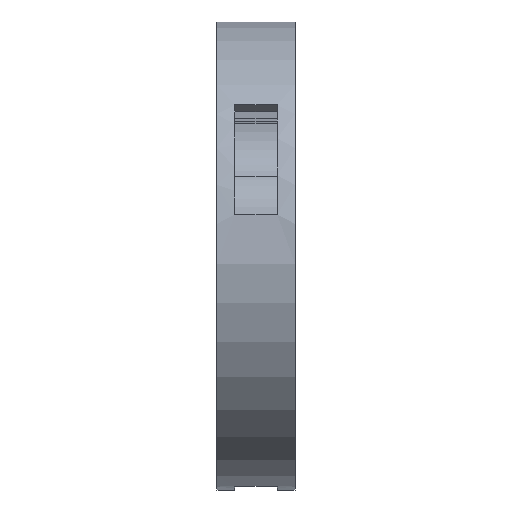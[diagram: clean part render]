
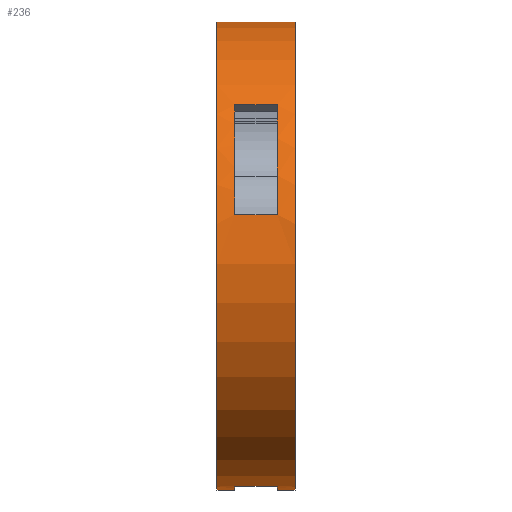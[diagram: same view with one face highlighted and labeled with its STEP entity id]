
A CAD part, top view. The second image highlights one B-rep face of the part: STEP entity #236.
In plain terms, the highlighted cylindrical face has radius 21 mm (diameter 42 mm), a partial arc.
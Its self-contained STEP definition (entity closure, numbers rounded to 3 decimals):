
#125=CARTESIAN_POINT('',(0.,0.0,0.0));
#126=DIRECTION('',(1.0,0.0,0.0));
#127=DIRECTION('',(0.0,1.0,0.0));
#128=AXIS2_PLACEMENT_3D('',#125,#126,#127);
#129=CYLINDRICAL_SURFACE('',#128,21.);
#130=CARTESIAN_POINT('',(3.5,-21.0,0.));
#131=VERTEX_POINT('',#130);
#132=CARTESIAN_POINT('',(1.9,-21.,0.));
#133=VERTEX_POINT('',#132);
#134=CARTESIAN_POINT('',(3.5,-21.0,0.));
#135=DIRECTION('',(-1.0,0.0,0.0));
#136=VECTOR('',#135,1.6);
#137=LINE('',#134,#136);
#138=EDGE_CURVE('',#131,#133,#137,.T.);
#139=ORIENTED_EDGE('',*,*,#138,.F.);
#140=CARTESIAN_POINT('',(3.5,20.946,1.5));
#141=VERTEX_POINT('',#140);
#142=CARTESIAN_POINT('',(3.5,0.0,0.0));
#143=DIRECTION('',(1.0,0.0,0.0));
#144=DIRECTION('',(0.0,1.0,0.0));
#145=AXIS2_PLACEMENT_3D('',#142,#143,#144);
#146=CIRCLE('',#145,21.0);
#147=EDGE_CURVE('',#141,#131,#146,.T.);
#148=ORIENTED_EDGE('',*,*,#147,.F.);
#149=CARTESIAN_POINT('',(-3.5,20.946,1.5));
#150=VERTEX_POINT('',#149);
#151=CARTESIAN_POINT('',(3.5,20.946,1.5));
#152=DIRECTION('',(-1.0,0.0,0.0));
#153=VECTOR('',#152,7.);
#154=LINE('',#151,#153);
#155=EDGE_CURVE('',#141,#150,#154,.T.);
#156=ORIENTED_EDGE('',*,*,#155,.T.);
#157=CARTESIAN_POINT('',(-3.5,-21.,0.));
#158=VERTEX_POINT('',#157);
#159=CARTESIAN_POINT('',(-3.5,0.0,0.0));
#160=DIRECTION('',(1.0,0.0,0.0));
#161=DIRECTION('',(0.0,1.0,0.0));
#162=AXIS2_PLACEMENT_3D('',#159,#160,#161);
#163=CIRCLE('',#162,21.);
#164=EDGE_CURVE('',#150,#158,#163,.T.);
#165=ORIENTED_EDGE('',*,*,#164,.T.);
#166=CARTESIAN_POINT('',(-1.9,-21.,0.));
#167=VERTEX_POINT('',#166);
#168=CARTESIAN_POINT('',(-1.9,-21.,0.));
#169=DIRECTION('',(-1.0,0.0,0.0));
#170=VECTOR('',#169,1.6);
#171=LINE('',#168,#170);
#172=EDGE_CURVE('',#167,#158,#171,.T.);
#173=ORIENTED_EDGE('',*,*,#172,.F.);
#174=CARTESIAN_POINT('',(-1.9,-20.681,3.647));
#175=VERTEX_POINT('',#174);
#176=CARTESIAN_POINT('',(-1.9,0.0,0.0));
#177=DIRECTION('',(-1.0,0.0,0.0));
#178=DIRECTION('',(0.0,1.0,0.0));
#179=AXIS2_PLACEMENT_3D('',#176,#177,#178);
#180=CIRCLE('',#179,21.);
#181=EDGE_CURVE('',#167,#175,#180,.T.);
#182=ORIENTED_EDGE('',*,*,#181,.T.);
#183=CARTESIAN_POINT('',(1.9,-20.681,3.647));
#184=VERTEX_POINT('',#183);
#185=CARTESIAN_POINT('',(-1.9,-20.681,3.647));
#186=DIRECTION('',(1.0,0.0,0.0));
#187=VECTOR('',#186,3.8);
#188=LINE('',#185,#187);
#189=EDGE_CURVE('',#175,#184,#188,.T.);
#190=ORIENTED_EDGE('',*,*,#189,.T.);
#191=CARTESIAN_POINT('',(1.9,0.0,0.0));
#192=DIRECTION('',(1.0,0.0,0.0));
#193=DIRECTION('',(0.0,1.0,0.0));
#194=AXIS2_PLACEMENT_3D('',#191,#192,#193);
#195=CIRCLE('',#194,21.);
#196=EDGE_CURVE('',#184,#133,#195,.T.);
#197=ORIENTED_EDGE('',*,*,#196,.T.);
#198=EDGE_LOOP('',(#139,#148,#156,#165,#173,#182,#190,#197));
#199=FACE_OUTER_BOUND('',#198,.T.);
#200=CARTESIAN_POINT('',(1.9,13.499,16.087));
#201=VERTEX_POINT('',#200);
#202=CARTESIAN_POINT('',(1.9,3.647,20.681));
#203=VERTEX_POINT('',#202);
#204=CARTESIAN_POINT('',(1.9,0.0,0.0));
#205=DIRECTION('',(1.0,0.0,0.0));
#206=DIRECTION('',(0.0,1.0,0.0));
#207=AXIS2_PLACEMENT_3D('',#204,#205,#206);
#208=CIRCLE('',#207,21.);
#209=EDGE_CURVE('',#201,#203,#208,.T.);
#210=ORIENTED_EDGE('',*,*,#209,.T.);
#211=CARTESIAN_POINT('',(-1.9,3.647,20.681));
#212=VERTEX_POINT('',#211);
#213=CARTESIAN_POINT('',(1.9,3.647,20.681));
#214=DIRECTION('',(-1.0,0.0,0.0));
#215=VECTOR('',#214,3.8);
#216=LINE('',#213,#215);
#217=EDGE_CURVE('',#203,#212,#216,.T.);
#218=ORIENTED_EDGE('',*,*,#217,.T.);
#219=CARTESIAN_POINT('',(-1.9,13.499,16.087));
#220=VERTEX_POINT('',#219);
#221=CARTESIAN_POINT('',(-1.9,0.0,0.0));
#222=DIRECTION('',(-1.0,0.0,0.0));
#223=DIRECTION('',(0.0,1.0,0.0));
#224=AXIS2_PLACEMENT_3D('',#221,#222,#223);
#225=CIRCLE('',#224,21.);
#226=EDGE_CURVE('',#212,#220,#225,.T.);
#227=ORIENTED_EDGE('',*,*,#226,.T.);
#228=CARTESIAN_POINT('',(-1.9,13.499,16.087));
#229=DIRECTION('',(1.0,0.0,0.0));
#230=VECTOR('',#229,3.8);
#231=LINE('',#228,#230);
#232=EDGE_CURVE('',#220,#201,#231,.T.);
#233=ORIENTED_EDGE('',*,*,#232,.T.);
#234=EDGE_LOOP('',(#210,#218,#227,#233));
#235=FACE_BOUND('',#234,.T.);
#236=ADVANCED_FACE('',(#199,#235),#129,.T.);
